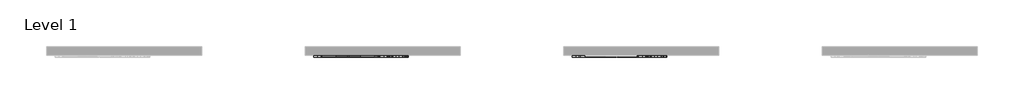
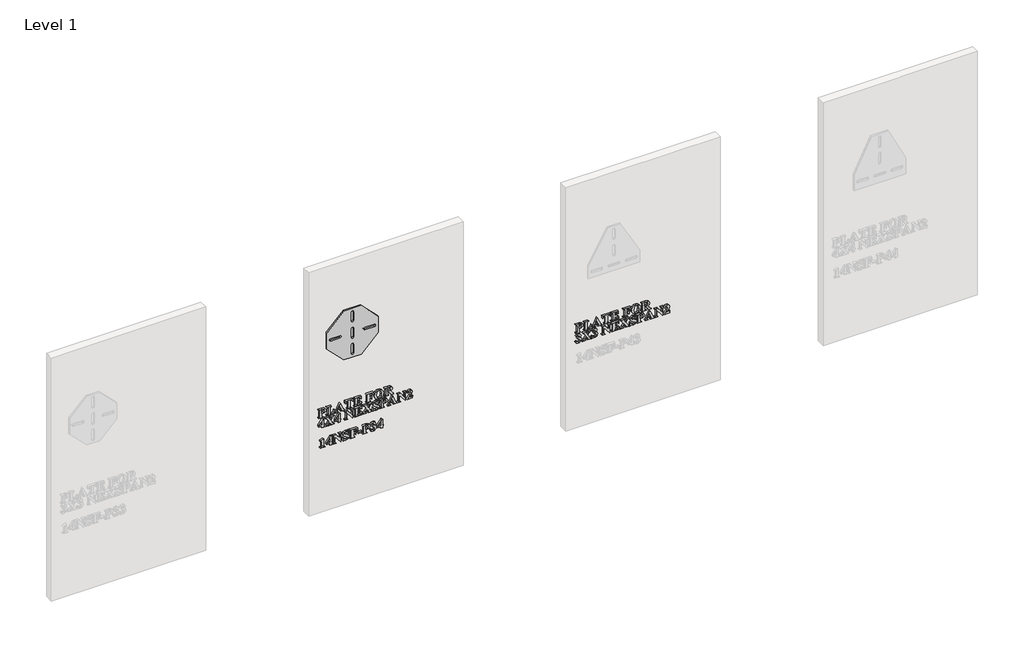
# One storey, part 17 of 21: 4 proxies.
"""IFC4 building model written with IfcOpenShell, lengths in millimetres."""

from ifc_helpers import new_model, si_unit, frame, origin, place, context, project, spatial, polyline, outline, extrude, transform, mapped, element, save
from components import generic_models_576d6bb0

model = new_model("IFC4")

# Units and contexts
model_context = context("Model", 3, world=origin())
ifc_project = project(units=[si_unit("LENGTHUNIT", "METRE", prefix="MILLI")], contexts=[model_context])

# Site, building, storey
site = spatial("IfcSite", under=ifc_project)
building = spatial("IfcBuilding", under=site)
storey = spatial("IfcBuildingStorey", under=building, Name="Level 1", Elevation=0.0)

# Proxies
placement = place(None, origin())
element("IfcBuildingElementProxy", 1, Name="2\"\" Arial", ObjectType="2\"\" Arial", at=placement, inside=storey, context=model_context, shape_type="SweptSolid", body=[
    extrude(outline(polyline([(624.2127681, 28352.7890158), (625.1268914, 28366.043803), (630.022991, 28375.1781105), (638.6586857, 28378.4952699), (648.6032388, 28373.4468164), (652.5782899, 28356.7917676), (652.5782899, 28333.2877195), (650.8054448, 28333.2877195), (650.2029545, 28338.0730163), (648.5963136, 28339.8666369), (643.7140644, 28340.3791), (609.1435847, 28340.3791), (604.2751858, 28339.8666369), (602.6685449, 28338.0937918), (602.0522042, 28333.2877195), (600.2793591, 28333.2877195), (600.2793591, 28359.8803962), (602.0522042, 28359.8803962), (602.6546946, 28355.1089498), (604.2613354, 28353.3014788), (609.1435847, 28352.7890158), (624.2127681, 28352.7890158)]), holes=[polyline([(649.9190223, 28352.7890158), (649.9190223, 28354.5757112), (647.1628021, 28363.1975556), (638.4786311, 28366.0853541), (629.6421063, 28363.1975556), (626.7889337, 28354.9773714), (626.8720358, 28352.7890158), (649.9190223, 28352.7890158)])]), frame((0.0, -15490.3579358, 0.0), z_axis=(0.0, 1.0, 0.0), x_axis=(0.0, 0.0, 1.0)), (0.0, 0.0, 1.0), 12.7),
    extrude(outline(polyline([(619.7806553, 28429.9077782), (619.7806553, 28428.1349331), (610.1269597, 28424.3399365), (605.3416629, 28419.5892656), (603.8250493, 28412.7194908), (603.8250493, 28408.4120312), (604.1713081, 28403.7998638), (605.7848742, 28401.999318), (610.8333277, 28401.5422564), (643.7140644, 28401.5422564), (648.298531, 28401.9162159), (650.0436754, 28403.3289518), (650.8054448, 28406.597635), (650.8054448, 28408.6336368), (652.5782899, 28408.6336368), (652.5782899, 28382.0409601), (650.8054448, 28382.0409601), (650.8054448, 28383.7168528), (650.0990768, 28387.0686381), (648.4439597, 28388.7237552), (643.7140644, 28389.1323406), (609.1435847, 28389.1323406), (604.559118, 28388.7306804), (602.8139736, 28387.2348423), (602.0522042, 28383.7168528), (602.0522042, 28382.0409601), (600.2793591, 28382.0409601), (600.2793591, 28428.1349331), (619.7806553, 28429.9077782)])), frame((0.0, -15490.3579358, 0.0), z_axis=(0.0, 1.0, 0.0), x_axis=(0.0, 0.0, 1.0)), (0.0, 0.0, 1.0), 12.7),
    extrude(outline(polyline([(615.3485426, 28464.8660677), (608.7003734, 28467.7884921), (604.559118, 28469.1735273), (602.869375, 28468.3286558), (602.0522042, 28463.0101205), (600.2793591, 28463.0101205), (600.2793591, 28488.4116669), (602.0522042, 28488.4116669), (603.4095388, 28484.7136228), (610.9025794, 28480.28151), (653.4647125, 28460.6278599), (612.066009, 28441.8052309), (604.3375124, 28437.3384922), (602.0522042, 28432.7193997), (600.2793591, 28432.7193997), (600.2793591, 28450.4894019), (602.0522042, 28450.4894019), (602.9386268, 28445.3647715), (606.0272554, 28443.5919264), (610.0300072, 28444.6722539), (615.3485426, 28447.0822152), (615.3485426, 28464.8660677)]), holes=[polyline([(618.8942328, 28463.3148283), (618.8942328, 28448.6888561), (635.2376487, 28456.0987946), (618.8942328, 28463.3148283)])]), frame((0.0, -15490.3579358, 0.0), z_axis=(0.0, 1.0, 0.0), x_axis=(0.0, 0.0, 1.0)), (0.0, 0.0, 1.0), 12.7),
    extrude(outline(polyline([(652.5782899, 28538.05133), (652.5782899, 28491.9573571), (637.5091065, 28491.9573571), (637.5091065, 28493.7302022), (646.7195908, 28497.8299065), (649.0325997, 28505.2536955), (649.0325997, 28508.7993857), (609.1435847, 28508.7993857), (604.559118, 28508.3977255), (602.8139736, 28506.8741867), (602.0522042, 28503.3700475), (602.0522042, 28501.7080052), (600.2793591, 28501.7080052), (600.2793591, 28528.3006819), (602.0522042, 28528.3006819), (602.0522042, 28526.65249), (602.7585722, 28523.2868543), (604.4136893, 28521.6317372), (609.1435847, 28521.2093015), (649.0325997, 28521.2093015), (649.0325997, 28524.7549917), (648.3123814, 28529.6857172), (644.7874667, 28533.646918), (637.5091065, 28536.2784849), (637.5091065, 28538.05133), (652.5782899, 28538.05133)])), frame((0.0, -15490.3579358, 0.0), z_axis=(0.0, 1.0, 0.0), x_axis=(0.0, 0.0, 1.0)), (0.0, 0.0, 1.0), 12.7),
    extrude(outline(polyline([(649.0325997, 28562.8711616), (649.0325997, 28567.3032744), (648.3400821, 28575.3364788), (644.7320653, 28581.0289737), (636.6226839, 28584.145303), (636.6226839, 28585.9181481), (652.5782899, 28585.9181481), (652.5782899, 28543.3698654), (650.8054448, 28543.3698654), (650.8054448, 28545.045758), (649.7805187, 28548.896156), (647.827619, 28550.2811912), (643.7140644, 28550.4612458), (609.1435847, 28550.4612458), (604.559118, 28550.0595856), (602.8139736, 28548.5637475), (602.0522042, 28545.045758), (602.0522042, 28543.3698654), (600.2793591, 28543.3698654), (600.2793591, 28587.1785302), (616.8859317, 28588.1203541), (606.4427659, 28582.0054235), (602.9386268, 28570.6827604), (602.9386268, 28567.6633836), (603.5549675, 28564.5470543), (605.1339076, 28563.2243456), (610.4039667, 28562.8711616), (625.0991907, 28562.8711616), (624.0950401, 28567.878064), (620.1753904, 28570.9112912), (612.6892749, 28572.6218097), (612.6892749, 28574.3946548), (640.1683741, 28574.3946548), (640.1683741, 28572.6218097), (630.9024884, 28570.1148959), (627.7584584, 28562.8711616), (649.0325997, 28562.8711616)])), frame((0.0, -15490.3579358, 0.0), z_axis=(0.0, 1.0, 0.0), x_axis=(0.0, 0.0, 1.0)), (0.0, 0.0, 1.0), 12.7),
    extrude(outline(polyline([(649.0325997, 28634.6713887), (649.0325997, 28639.1035015), (648.4370346, 28647.6630193), (644.7251401, 28654.0757325), (636.6226839, 28656.8319526), (636.6226839, 28658.6047977), (652.5782899, 28658.6047977), (652.5782899, 28615.1700924), (650.8054448, 28615.1700924), (650.8054448, 28616.8459851), (650.0990768, 28620.1977704), (648.4439597, 28621.8528875), (643.7140644, 28622.2614729), (609.1435847, 28622.2614729), (604.559118, 28621.8598127), (602.8139736, 28620.3639746), (602.0522042, 28616.8459851), (602.0522042, 28615.1700924), (600.2793591, 28615.1700924), (600.2793591, 28641.7627691), (602.0522042, 28641.7627691), (602.0522042, 28640.1007268), (602.7585722, 28636.7558667), (604.4136893, 28635.0938244), (609.1435847, 28634.6713887), (625.0991907, 28634.6713887), (625.0991907, 28636.4442338), (622.6823042, 28643.3555597), (612.6892749, 28647.0813045), (612.6892749, 28648.8541496), (641.0547967, 28648.8541496), (641.0547967, 28647.0813045), (633.6725588, 28645.2253572), (629.7944602, 28641.7419936), (628.6448809, 28636.4442338), (628.6448809, 28634.6713887), (649.0325997, 28634.6713887)])), frame((0.0, -15490.3579358, 0.0), z_axis=(0.0, 1.0, 0.0), x_axis=(0.0, 0.0, 1.0)), (0.0, 0.0, 1.0), 12.7),
    extrude(outline(polyline([(653.4647125, 28691.0561735), (651.8788471, 28680.514324), (646.1794271, 28671.7695577), (637.4606302, 28665.8848892), (626.8166344, 28663.923333), (617.1733265, 28665.4295589), (608.9358294, 28669.9482364), (601.7786598, 28679.1656459), (599.3929366, 28691.5547862), (601.8929252, 28703.9127631), (609.392891, 28713.1197849), (626.8581854, 28718.8815315), (637.4969874, 28716.9494074), (646.2002026, 28711.1530349), (651.884041, 28702.2645712), (653.4647125, 28691.0561735)]), holes=[polyline([(650.8054448, 28691.5132351), (648.6863409, 28698.1267784), (641.4356814, 28702.8497486), (625.9440622, 28704.6987706), (611.8444034, 28702.8843745), (603.9774032, 28697.8151455), (602.0522042, 28691.4439833), (606.5120177, 28682.6213088), (626.2487699, 28678.1060939), (643.4924587, 28681.0285183), (648.9771983, 28685.4502433), (650.8054448, 28691.5132351)])]), frame((0.0, -15490.3579358, 0.0), z_axis=(0.0, 1.0, 0.0), x_axis=(0.0, 0.0, 1.0)), (0.0, 0.0, 1.0), 12.7),
    extrude(outline(polyline([(624.2127681, 28742.8149406), (624.2127681, 28746.249828), (600.2793591, 28763.0364551), (600.2793591, 28779.1582654), (602.0522042, 28779.1582654), (603.3956884, 28775.8895822), (607.7723998, 28772.7455522), (625.4592998, 28760.3356364), (628.9911397, 28767.2885133), (638.395529, 28771.1804624), (646.5326111, 28768.417317), (651.2902072, 28761.2843855), (652.5782899, 28747.4825093), (652.5782899, 28723.3136443), (650.8054448, 28723.3136443), (650.2029545, 28728.0989411), (648.5963136, 28729.8925617), (643.7140644, 28730.4050248), (609.1435847, 28730.4050248), (604.2751858, 28729.8925617), (602.6685449, 28728.1197166), (602.0522042, 28723.3136443), (600.2793591, 28723.3136443), (600.2793591, 28749.906321), (602.0522042, 28749.906321), (602.6546946, 28745.1210242), (604.2613354, 28743.3274036), (609.1435847, 28742.8149406), (624.2127681, 28742.8149406)]), holes=[polyline([(649.9190223, 28742.8149406), (649.9190223, 28746.9423456), (647.0450741, 28755.9727754), (638.160073, 28758.7705466), (631.4288018, 28757.2470078), (627.862336, 28753.0572762), (626.8720358, 28745.0171466), (626.8720358, 28742.8149406), (649.9190223, 28742.8149406)])]), frame((0.0, -15490.3579358, 0.0), z_axis=(0.0, 1.0, 0.0), x_axis=(0.0, 0.0, 1.0)), (0.0, 0.0, 1.0), 12.7),
    extrude(outline(polyline([(555.684317, 28334.1741421), (547.706514, 28334.1741421), (547.706514, 28352.7890158), (536.1830208, 28352.7890158), (536.1830208, 28364.312509), (547.706514, 28364.312509), (547.706514, 28368.7446218), (555.684317, 28368.7446218), (555.684317, 28364.312509), (589.3683741, 28364.312509), (589.3683741, 28359.2017289), (555.684317, 28334.1741421)]), holes=[polyline([(555.684317, 28336.8611105), (577.1108122, 28352.7890158), (555.684317, 28352.7890158), (555.684317, 28336.8611105)])]), frame((0.0, -15490.3579358, 0.0), z_axis=(0.0, 1.0, 0.0), x_axis=(0.0, 0.0, 1.0)), (0.0, 0.0, 1.0), 12.7),
    extrude(outline(polyline([(566.5845444, 28404.5062318), (578.4681468, 28413.9937232), (584.2021927, 28419.0075508), (586.1481672, 28421.9715262), (586.7091065, 28425.6280193), (588.4819516, 28425.6280193), (588.4819516, 28406.1959748), (586.7091065, 28406.1959748), (586.2243441, 28409.6585629), (584.88086, 28411.3760066), (583.0110624, 28411.9715718), (575.9473826, 28407.7333639), (569.5069687, 28402.5810328), (579.146814, 28396.2514217), (584.3406962, 28393.3289974), (586.0304392, 28394.2154199), (586.7091065, 28398.6336823), (588.4819516, 28398.6336823), (588.4819516, 28373.0936324), (586.7091065, 28373.0936324), (585.9334867, 28375.8637029), (584.2021927, 28377.8997047), (579.0775623, 28381.6392999), (559.4377625, 28394.5478284), (546.8616425, 28384.4786222), (539.7425613, 28377.2764389), (537.9558659, 28371.8886518), (536.1830208, 28371.8886518), (536.1830208, 28392.2348195), (537.9558659, 28392.2348195), (538.1774715, 28388.9245853), (539.4655543, 28386.1891407), (541.4046036, 28385.2680922), (547.000146, 28388.8414832), (556.5291885, 28396.459177), (545.781315, 28403.5228568), (540.4627797, 28406.4868322), (538.8422884, 28405.6004096), (537.9558659, 28401.6807599), (536.1830208, 28401.6807599), (536.1830208, 28426.9715034), (537.9558659, 28426.9715034), (539.2993501, 28423.3704118), (545.6428115, 28418.2596318), (566.5845444, 28404.5062318)])), frame((0.0, -15490.3579358, 0.0), z_axis=(0.0, 1.0, 0.0), x_axis=(0.0, 0.0, 1.0)), (0.0, 0.0, 1.0), 12.7),
    extrude(outline(polyline([(555.684317, 28429.9077782), (547.706514, 28429.9077782), (547.706514, 28448.5226518), (536.1830208, 28448.5226518), (536.1830208, 28460.0461451), (547.706514, 28460.0461451), (547.706514, 28464.4782579), (555.684317, 28464.4782579), (555.684317, 28460.0461451), (589.3683741, 28460.0461451), (589.3683741, 28454.935365), (555.684317, 28429.9077782)]), holes=[polyline([(555.684317, 28432.5947465), (577.1108122, 28448.5226518), (555.684317, 28448.5226518), (555.684317, 28432.5947465)])]), frame((0.0, -15490.3579358, 0.0), z_axis=(0.0, 1.0, 0.0), x_axis=(0.0, 0.0, 1.0)), (0.0, 0.0, 1.0), 12.7),
    extrude(outline(polyline([(588.4819516, 28506.61103), (588.4819516, 28488.1900612), (586.7091065, 28488.1900612), (586.1066161, 28491.8534795), (582.955661, 28495.5030473), (545.0472463, 28495.5030473), (539.5971326, 28493.9448827), (537.9558659, 28488.4116669), (536.1830208, 28488.4116669), (536.1830208, 28506.140118), (537.9558659, 28505.0459402), (539.4170781, 28500.8700589), (545.0472463, 28499.0487376), (578.4542964, 28499.0487376), (535.2965982, 28532.8712982), (535.2965982, 28534.5056398), (577.8448809, 28534.5056398), (583.2811442, 28535.1635316), (585.5664524, 28536.9987033), (586.7091065, 28541.5970203), (588.4819516, 28541.5970203), (588.4819516, 28523.8685691), (586.7091065, 28523.8685691), (584.4653494, 28529.6995675), (577.8448809, 28530.9599496), (557.4156111, 28530.9599496), (588.4819516, 28506.61103)])), frame((0.0, -15490.3579358, 0.0), z_axis=(0.0, 1.0, 0.0), x_axis=(0.0, 0.0, 1.0)), (0.0, 0.0, 1.0), 12.7),
    extrude(outline(polyline([(584.9362614, 28565.5304293), (584.9362614, 28569.9625421), (584.2437437, 28577.9957465), (580.6357269, 28583.6882413), (572.5263456, 28586.8045706), (572.5263456, 28588.5774157), (588.4819516, 28588.5774157), (588.4819516, 28546.029133), (586.7091065, 28546.029133), (586.7091065, 28547.7050257), (585.6841804, 28551.5554237), (583.7312807, 28552.9404589), (579.617726, 28553.1205135), (545.0472463, 28553.1205135), (540.4627797, 28552.7188533), (538.7176353, 28551.2230152), (537.9558659, 28547.7050257), (537.9558659, 28546.029133), (536.1830208, 28546.029133), (536.1830208, 28589.8377978), (552.7895933, 28590.7796218), (542.3464276, 28584.6646912), (538.8422884, 28573.3420281), (538.8422884, 28570.3226512), (539.4586291, 28567.2063219), (541.0375693, 28565.8836133), (546.3076284, 28565.5304293), (561.0028523, 28565.5304293), (559.9987018, 28570.5373317), (556.079052, 28573.5705589), (548.5929366, 28575.2810774), (548.5929366, 28577.0539225), (576.0720358, 28577.0539225), (576.0720358, 28575.2810774), (566.80615, 28572.7741636), (563.66212, 28565.5304293), (584.9362614, 28565.5304293)])), frame((0.0, -15490.3579358, 0.0), z_axis=(0.0, 1.0, 0.0), x_axis=(0.0, 0.0, 1.0)), (0.0, 0.0, 1.0), 12.7),
    extrude(outline(polyline([(566.5845444, 28628.7711385), (578.4681468, 28638.25863), (584.2021927, 28643.2724575), (586.1481672, 28646.236433), (586.7091065, 28649.892926), (588.4819516, 28649.892926), (588.4819516, 28630.4608815), (586.7091065, 28630.4608815), (586.2243441, 28633.9234696), (584.88086, 28635.6409134), (583.0110624, 28636.2364785), (575.9473826, 28631.9982707), (569.5069687, 28626.8459395), (579.146814, 28620.5163285), (584.3406962, 28617.5939041), (586.0304392, 28618.4803267), (586.7091065, 28622.8985891), (588.4819516, 28622.8985891), (588.4819516, 28597.3585392), (586.7091065, 28597.3585392), (585.9334867, 28600.1286097), (584.2021927, 28602.1646115), (579.0775623, 28605.9042067), (559.4377625, 28618.8127351), (546.8616425, 28608.7435289), (539.7425613, 28601.5413456), (537.9558659, 28596.1535585), (536.1830208, 28596.1535585), (536.1830208, 28616.4997263), (537.9558659, 28616.4997263), (538.1774715, 28613.189492), (539.4655543, 28610.4540474), (541.4046036, 28609.532999), (547.000146, 28613.1063899), (556.5291885, 28620.7240838), (545.781315, 28627.7877635), (540.4627797, 28630.7517389), (538.8422884, 28629.8653164), (537.9558659, 28625.9456666), (536.1830208, 28625.9456666), (536.1830208, 28651.2364102), (537.9558659, 28651.2364102), (539.2993501, 28647.6353186), (545.6428115, 28642.5245385), (566.5845444, 28628.7711385)])), frame((0.0, -15490.3579358, 0.0), z_axis=(0.0, 1.0, 0.0), x_axis=(0.0, 0.0, 1.0)), (0.0, 0.0, 1.0), 12.7),
    extrude(outline(polyline([(589.3683741, 28690.5160097), (589.3683741, 28688.7431646), (586.4320994, 28687.6351364), (585.8226839, 28686.0007948), (587.0622905, 28682.2404241), (588.7589586, 28677.6905834), (589.3683741, 28672.607504), (585.040139, 28660.6754254), (574.548497, 28655.94553), (567.9418789, 28657.5798716), (562.5056156, 28662.2612907), (556.5984403, 28673.1061167), (552.5541373, 28680.8623141), (549.2854542, 28684.1240721), (545.7259136, 28685.1974744), (540.2896503, 28682.5312815), (537.9558659, 28675.3637242), (542.2702507, 28664.511973), (554.7978944, 28657.7183751), (554.7978944, 28655.94553), (535.2965982, 28655.94553), (535.2965982, 28657.7183751), (537.9697162, 28659.5396965), (538.8422884, 28661.6795759), (537.9835666, 28664.7405038), (535.8575375, 28670.28757), (535.2965982, 28674.9759143), (539.9780173, 28688.0367966), (551.1691021, 28693.1752774), (560.2687837, 28690.5575608), (568.7174987, 28677.8706379), (573.2050128, 28668.7294053), (576.7645534, 28664.8097556), (579.8254813, 28663.923333), (584.6246284, 28666.3471447), (586.7091065, 28672.9260621), (582.5747763, 28682.9398669), (571.639923, 28688.7431646), (571.639923, 28690.5160097), (589.3683741, 28690.5160097)])), frame((0.0, -15490.3579358, 0.0), z_axis=(0.0, 1.0, 0.0), x_axis=(0.0, 0.0, 1.0)), (0.0, 0.0, 1.0), 12.7),
    extrude(outline(polyline([(560.1164298, 28716.2222639), (561.030553, 28729.4770512), (565.9266526, 28738.6113586), (574.5623474, 28741.928518), (584.5069004, 28736.8800645), (588.4819516, 28720.2250157), (588.4819516, 28696.7209676), (586.7091065, 28696.7209676), (586.1066161, 28701.5062644), (584.4999753, 28703.299885), (579.617726, 28703.8123481), (545.0472463, 28703.8123481), (540.1788474, 28703.299885), (538.5722066, 28701.5270399), (537.9558659, 28696.7209676), (536.1830208, 28696.7209676), (536.1830208, 28723.3136443), (537.9558659, 28723.3136443), (538.5583562, 28718.5421979), (540.1649971, 28716.7347269), (545.0472463, 28716.2222639), (560.1164298, 28716.2222639)]), holes=[polyline([(585.8226839, 28716.2222639), (585.8226839, 28718.0089593), (583.0664638, 28726.6308037), (574.3822928, 28729.5186022), (565.5457679, 28726.6308037), (562.6925953, 28718.4106195), (562.7756975, 28716.2222639), (585.8226839, 28716.2222639)])]), frame((0.0, -15490.3579358, 0.0), z_axis=(0.0, 1.0, 0.0), x_axis=(0.0, 0.0, 1.0)), (0.0, 0.0, 1.0), 12.7),
    extrude(outline(polyline([(551.2522042, 28776.000385), (544.604035, 28778.9228094), (540.4627797, 28780.3078446), (538.7730367, 28779.4629731), (537.9558659, 28774.1444378), (536.1830208, 28774.1444378), (536.1830208, 28799.5459842), (537.9558659, 28799.5459842), (539.3132004, 28795.8479401), (546.8062411, 28791.4158273), (589.3683741, 28771.7621772), (547.9696707, 28752.9395482), (540.241174, 28748.4728095), (537.9558659, 28743.853717), (536.1830208, 28743.853717), (536.1830208, 28761.6237192), (537.9558659, 28761.6237192), (538.8422884, 28756.4990888), (541.930917, 28754.7262437), (545.9336689, 28755.8065711), (551.2522042, 28758.2165325), (551.2522042, 28776.000385)]), holes=[polyline([(554.7978944, 28774.4491455), (554.7978944, 28759.8231734), (571.1413103, 28767.2331119), (554.7978944, 28774.4491455)])]), frame((0.0, -15490.3579358, 0.0), z_axis=(0.0, 1.0, 0.0), x_axis=(0.0, 0.0, 1.0)), (0.0, 0.0, 1.0), 12.7),
    extrude(outline(polyline([(588.4819516, 28819.5181924), (588.4819516, 28801.0972236), (586.7091065, 28801.0972236), (586.1066161, 28804.7606419), (582.955661, 28808.4102097), (545.0472463, 28808.4102097), (539.5971326, 28806.8520451), (537.9558659, 28801.3188293), (536.1830208, 28801.3188293), (536.1830208, 28819.0472804), (537.9558659, 28817.9531026), (539.4170781, 28813.7772213), (545.0472463, 28811.9558999), (578.4542964, 28811.9558999), (535.2965982, 28845.7784606), (535.2965982, 28847.4128022), (577.8448809, 28847.4128022), (583.2811442, 28848.0706939), (585.5664524, 28849.9058656), (586.7091065, 28854.5041827), (588.4819516, 28854.5041827), (588.4819516, 28836.7757315), (586.7091065, 28836.7757315), (584.4653494, 28842.6067299), (577.8448809, 28843.867112), (557.4156111, 28843.867112), (588.4819516, 28819.5181924)])), frame((0.0, -15490.3579358, 0.0), z_axis=(0.0, 1.0, 0.0), x_axis=(0.0, 0.0, 1.0)), (0.0, 0.0, 1.0), 12.7),
    extrude(outline(polyline([(536.1830208, 28888.5899), (551.2522042, 28890.2103913), (548.1635756, 28888.1120629), (547.1247992, 28886.076061), (546.8200914, 28880.7228998), (546.8200914, 28869.5595158), (566.3906394, 28886.2768912), (576.6260499, 28889.0746624), (582.5609259, 28887.1840892), (587.5470528, 28881.9555812), (589.3683741, 28874.5733433), (585.864235, 28864.5803141), (574.548497, 28859.5595613), (579.0152357, 28863.7285174), (580.5041486, 28869.3102094), (577.8241054, 28875.7852492), (571.0997593, 28878.4375917), (559.7286199, 28875.3351127), (536.1830208, 28857.1634503), (536.1830208, 28888.5899)])), frame((0.0, -15490.3579358, 0.0), z_axis=(0.0, 1.0, 0.0), x_axis=(0.0, 0.0, 1.0)), (0.0, 0.0, 1.0), 12.7),
])
element("IfcBuildingElementProxy", 2, Name="2\"\" Arial", ObjectType="2\"\" Arial", at=placement, inside=storey, context=model_context, shape_type="SweptSolid", body=[
    extrude(outline(polyline([(463.8692305, 28362.9409375), (455.0050049, 28343.1834097), (453.2321598, 28343.8482267), (454.4648412, 28348.4049926), (453.827725, 28350.4825455), (452.3111114, 28351.7152269), (447.9136245, 28352.0476353), (421.3209478, 28352.0476353), (415.2544934, 28351.5282471), (413.2046413, 28349.5407215), (412.4567222, 28343.1834097), (410.6838771, 28343.1834097), (410.6838771, 28371.5489316), (412.4567222, 28370.3162502), (413.273893, 28365.8425863), (415.3791466, 28364.0074146), (421.3209478, 28363.5711285), (463.8692305, 28362.9409375)])), frame((0.0, -15490.3579358, 0.0), z_axis=(0.0, 1.0, 0.0), x_axis=(0.0, 0.0, 1.0)), (0.0, 0.0, 1.0), 12.7),
    extrude(outline(polyline([(430.1851733, 28380.4131571), (422.2073703, 28380.4131571), (422.2073703, 28399.0280308), (410.6838771, 28399.0280308), (410.6838771, 28410.551524), (422.2073703, 28410.551524), (422.2073703, 28414.9836368), (430.1851733, 28414.9836368), (430.1851733, 28410.551524), (463.8692305, 28410.551524), (463.8692305, 28405.440744), (430.1851733, 28380.4131571)]), holes=[polyline([(430.1851733, 28383.1001255), (451.6116686, 28399.0280308), (430.1851733, 28399.0280308), (430.1851733, 28383.1001255)])]), frame((0.0, -15490.3579358, 0.0), z_axis=(0.0, 1.0, 0.0), x_axis=(0.0, 0.0, 1.0)), (0.0, 0.0, 1.0), 12.7),
    extrude(outline(polyline([(462.9828079, 28437.6151127), (462.9828079, 28419.194144), (461.2099628, 28419.194144), (460.6074725, 28422.8575622), (457.4565173, 28426.50713), (419.5481027, 28426.50713), (414.097989, 28424.9489654), (412.4567222, 28419.4157496), (410.6838771, 28419.4157496), (410.6838771, 28437.1442007), (412.4567222, 28436.0500229), (413.9179344, 28431.8741416), (419.5481027, 28430.0528203), (452.9551528, 28430.0528203), (409.7974546, 28463.8753809), (409.7974546, 28465.5097225), (452.3457373, 28465.5097225), (457.7820006, 28466.1676143), (460.0673087, 28468.002786), (461.2099628, 28472.601103), (462.9828079, 28472.601103), (462.9828079, 28454.8726518), (461.2099628, 28454.8726518), (458.9662057, 28460.7036502), (452.3457373, 28461.9640323), (431.9164674, 28461.9640323), (462.9828079, 28437.6151127)])), frame((0.0, -15490.3579358, 0.0), z_axis=(0.0, 1.0, 0.0), x_axis=(0.0, 0.0, 1.0)), (0.0, 0.0, 1.0), 12.7),
    extrude(outline(polyline([(463.8692305, 28513.3765406), (463.8692305, 28511.6036955), (460.9329558, 28510.4956673), (460.3235403, 28508.8613257), (461.5631468, 28505.100955), (463.259815, 28500.5511142), (463.8692305, 28495.4680349), (459.5409954, 28483.5359562), (449.0493534, 28478.8060609), (442.4427353, 28480.4404025), (437.0064719, 28485.1218216), (431.0992966, 28495.9666475), (427.0549937, 28503.7228449), (423.7863105, 28506.9846029), (420.2267699, 28508.0580052), (414.7905066, 28505.3918124), (412.4567222, 28498.224255), (416.771107, 28487.3725039), (429.2987508, 28480.578906), (429.2987508, 28478.8060609), (409.7974546, 28478.8060609), (409.7974546, 28480.578906), (412.4705726, 28482.4002273), (413.3431448, 28484.5401068), (412.4844229, 28487.6010347), (410.3583938, 28493.1481008), (409.7974546, 28497.8364451), (414.4788737, 28510.8973275), (425.6699585, 28516.0358082), (434.76964, 28513.4180916), (443.218355, 28500.7311688), (447.7058692, 28491.5899362), (451.2654098, 28487.6702864), (454.3263377, 28486.7838639), (459.1254848, 28489.2076756), (461.2099628, 28495.786593), (457.0756326, 28505.8003978), (446.1407794, 28511.6036955), (446.1407794, 28513.3765406), (463.8692305, 28513.3765406)])), frame((0.0, -15490.3579358, 0.0), z_axis=(0.0, 1.0, 0.0), x_axis=(0.0, 0.0, 1.0)), (0.0, 0.0, 1.0), 12.7),
    extrude(outline(polyline([(459.4371177, 28539.9692173), (459.4371177, 28544.40133), (458.8415526, 28552.9608478), (455.1296581, 28559.373561), (447.0272019, 28562.1297812), (447.0272019, 28563.9026263), (462.9828079, 28563.9026263), (462.9828079, 28520.467921), (461.2099628, 28520.467921), (461.2099628, 28522.1438137), (460.5035948, 28525.495599), (458.8484777, 28527.1507161), (454.1185824, 28527.5593015), (419.5481027, 28527.5593015), (414.963636, 28527.1576412), (413.2184916, 28525.6618032), (412.4567222, 28522.1438137), (412.4567222, 28520.467921), (410.6838771, 28520.467921), (410.6838771, 28547.0605977), (412.4567222, 28547.0605977), (412.4567222, 28545.3985554), (413.1630902, 28542.0536953), (414.8182073, 28540.391653), (419.5481027, 28539.9692173), (435.5037087, 28539.9692173), (435.5037087, 28541.7420624), (433.0868222, 28548.6533882), (423.0937929, 28552.379133), (423.0937929, 28554.1519782), (451.4593147, 28554.1519782), (451.4593147, 28552.379133), (444.0770768, 28550.5231858), (440.1989782, 28547.0398222), (439.0493989, 28541.7420624), (439.0493989, 28539.9692173), (459.4371177, 28539.9692173)])), frame((0.0, -15490.3579358, 0.0), z_axis=(0.0, 1.0, 0.0), x_axis=(0.0, 0.0, 1.0)), (0.0, 0.0, 1.0), 12.7),
    extrude(outline(polyline([(28589.6088804, -15490.3579358), (28567.4483165, -15490.3579358), (28567.4483165, -15477.6579358), (28589.6088804, -15477.6579358), (28589.6088804, -15490.3579358)])), frame((0.0, 0.0, 424.866638), z_axis=(0.0, 0.0, 1.0), x_axis=(1.0, 0.0, 0.0)), (0.0, 0.0, 1.0), 7.977803),
    extrude(outline(polyline([(434.6172861, 28613.5422894), (435.5314094, 28626.7970767), (440.427509, 28635.9313842), (449.0632037, 28639.2485436), (459.0077568, 28634.2000901), (462.9828079, 28617.5450413), (462.9828079, 28594.0409932), (461.2099628, 28594.0409932), (460.6074725, 28598.82629), (459.0008316, 28600.6199106), (454.1185824, 28601.1323736), (419.5481027, 28601.1323736), (414.6797038, 28600.6199106), (413.0730629, 28598.8470655), (412.4567222, 28594.0409932), (410.6838771, 28594.0409932), (410.6838771, 28620.6336699), (412.4567222, 28620.6336699), (413.0592126, 28615.8622235), (414.6658534, 28614.0547525), (419.5481027, 28613.5422894), (434.6172861, 28613.5422894)]), holes=[polyline([(460.3235403, 28613.5422894), (460.3235403, 28615.3289849), (457.5673201, 28623.9508293), (448.8831491, 28626.8386278), (440.0466243, 28623.9508293), (437.1934517, 28615.7306451), (437.2765538, 28613.5422894), (460.3235403, 28613.5422894)])]), frame((0.0, -15490.3579358, 0.0), z_axis=(0.0, 1.0, 0.0), x_axis=(0.0, 0.0, 1.0)), (0.0, 0.0, 1.0), 12.7),
    extrude(outline(polyline([(439.0493989, 28650.7720368), (432.8790669, 28662.6625644), (423.1214936, 28666.7276428), (417.3805225, 28664.6223892), (415.1159899, 28659.580861), (418.2323192, 28652.3232763), (421.6533562, 28647.8219117), (422.2073703, 28645.356549), (420.7184575, 28642.330247), (417.124291, 28641.0213887), (412.4013208, 28643.2789961), (409.7974546, 28653.2235492), (411.3123369, 28662.3994077), (415.8569837, 28669.5115637), (422.5657482, 28674.0717922), (430.5729832, 28675.5918684), (439.1186507, 28672.7525461), (444.8526966, 28664.5115864), (449.0562786, 28670.8965989), (454.0216299, 28672.9326007), (460.9191054, 28669.2968832), (463.8692305, 28660.0656233), (461.4246433, 28650.1141451), (453.6061193, 28643.6806563), (458.5506952, 28653.0711953), (456.1892101, 28659.0199217), (450.5313411, 28661.4091075), (445.8291464, 28660.1279499), (442.3804087, 28657.0877975), (439.0493989, 28650.7720368)])), frame((0.0, -15490.3579358, 0.0), z_axis=(0.0, 1.0, 0.0), x_axis=(0.0, 0.0, 1.0)), (0.0, 0.0, 1.0), 12.7),
    extrude(outline(polyline([(430.1851733, 28682.6832488), (422.2073703, 28682.6832488), (422.2073703, 28701.2981225), (410.6838771, 28701.2981225), (410.6838771, 28712.8216157), (422.2073703, 28712.8216157), (422.2073703, 28717.2537285), (430.1851733, 28717.2537285), (430.1851733, 28712.8216157), (463.8692305, 28712.8216157), (463.8692305, 28707.7108357), (430.1851733, 28682.6832488)]), holes=[polyline([(430.1851733, 28685.3702172), (451.6116686, 28701.2981225), (430.1851733, 28701.2981225), (430.1851733, 28685.3702172)])]), frame((0.0, -15490.3579358, 0.0), z_axis=(0.0, 1.0, 0.0), x_axis=(0.0, 0.0, 1.0)), (0.0, 0.0, 1.0), 12.7),
])
element("IfcBuildingElementProxy", 3, Name="2\"\" Arial", ObjectType="2\"\" Arial", at=placement, inside=storey, context=model_context, shape_type="SweptSolid", body=[
    extrude(outline(polyline([(624.2127681, 29876.7890158), (625.1268914, 29890.043803), (630.022991, 29899.1781105), (638.6586857, 29902.4952699), (648.6032388, 29897.4468164), (652.5782899, 29880.7917676), (652.5782899, 29857.2877195), (650.8054448, 29857.2877195), (650.2029545, 29862.0730163), (648.5963136, 29863.8666369), (643.7140644, 29864.3791), (609.1435847, 29864.3791), (604.2751858, 29863.8666369), (602.6685449, 29862.0937918), (602.0522042, 29857.2877195), (600.2793591, 29857.2877195), (600.2793591, 29883.8803962), (602.0522042, 29883.8803962), (602.6546946, 29879.1089498), (604.2613354, 29877.3014788), (609.1435847, 29876.7890158), (624.2127681, 29876.7890158)]), holes=[polyline([(649.9190223, 29876.7890158), (649.9190223, 29878.5757112), (647.1628021, 29887.1975556), (638.4786311, 29890.0853541), (629.6421063, 29887.1975556), (626.7889337, 29878.9773714), (626.8720358, 29876.7890158), (649.9190223, 29876.7890158)])]), frame((0.0, -15490.3579358, 0.0), z_axis=(0.0, 1.0, 0.0), x_axis=(0.0, 0.0, 1.0)), (0.0, 0.0, 1.0), 12.7),
    extrude(outline(polyline([(619.7806553, 29953.9077782), (619.7806553, 29952.1349331), (610.1269597, 29948.3399365), (605.3416629, 29943.5892656), (603.8250493, 29936.7194908), (603.8250493, 29932.4120312), (604.1713081, 29927.7998638), (605.7848742, 29925.999318), (610.8333277, 29925.5422564), (643.7140644, 29925.5422564), (648.298531, 29925.9162159), (650.0436754, 29927.3289518), (650.8054448, 29930.597635), (650.8054448, 29932.6336368), (652.5782899, 29932.6336368), (652.5782899, 29906.0409601), (650.8054448, 29906.0409601), (650.8054448, 29907.7168528), (650.0990768, 29911.0686381), (648.4439597, 29912.7237552), (643.7140644, 29913.1323406), (609.1435847, 29913.1323406), (604.559118, 29912.7306804), (602.8139736, 29911.2348423), (602.0522042, 29907.7168528), (602.0522042, 29906.0409601), (600.2793591, 29906.0409601), (600.2793591, 29952.1349331), (619.7806553, 29953.9077782)])), frame((0.0, -15490.3579358, 0.0), z_axis=(0.0, 1.0, 0.0), x_axis=(0.0, 0.0, 1.0)), (0.0, 0.0, 1.0), 12.7),
    extrude(outline(polyline([(615.3485426, 29988.8660677), (608.7003734, 29991.7884921), (604.559118, 29993.1735273), (602.869375, 29992.3286558), (602.0522042, 29987.0101205), (600.2793591, 29987.0101205), (600.2793591, 30012.4116669), (602.0522042, 30012.4116669), (603.4095388, 30008.7136228), (610.9025794, 30004.28151), (653.4647125, 29984.6278599), (612.066009, 29965.8052309), (604.3375124, 29961.3384922), (602.0522042, 29956.7193997), (600.2793591, 29956.7193997), (600.2793591, 29974.4894019), (602.0522042, 29974.4894019), (602.9386268, 29969.3647715), (606.0272554, 29967.5919264), (610.0300072, 29968.6722539), (615.3485426, 29971.0822152), (615.3485426, 29988.8660677)]), holes=[polyline([(618.8942328, 29987.3148283), (618.8942328, 29972.6888561), (635.2376487, 29980.0987946), (618.8942328, 29987.3148283)])]), frame((0.0, -15490.3579358, 0.0), z_axis=(0.0, 1.0, 0.0), x_axis=(0.0, 0.0, 1.0)), (0.0, 0.0, 1.0), 12.7),
    extrude(outline(polyline([(652.5782899, 30062.05133), (652.5782899, 30015.9573571), (637.5091065, 30015.9573571), (637.5091065, 30017.7302022), (646.7195908, 30021.8299065), (649.0325997, 30029.2536955), (649.0325997, 30032.7993857), (609.1435847, 30032.7993857), (604.559118, 30032.3977255), (602.8139736, 30030.8741867), (602.0522042, 30027.3700475), (602.0522042, 30025.7080052), (600.2793591, 30025.7080052), (600.2793591, 30052.3006819), (602.0522042, 30052.3006819), (602.0522042, 30050.65249), (602.7585722, 30047.2868543), (604.4136893, 30045.6317372), (609.1435847, 30045.2093015), (649.0325997, 30045.2093015), (649.0325997, 30048.7549917), (648.3123814, 30053.6857172), (644.7874667, 30057.646918), (637.5091065, 30060.2784849), (637.5091065, 30062.05133), (652.5782899, 30062.05133)])), frame((0.0, -15490.3579358, 0.0), z_axis=(0.0, 1.0, 0.0), x_axis=(0.0, 0.0, 1.0)), (0.0, 0.0, 1.0), 12.7),
    extrude(outline(polyline([(649.0325997, 30086.8711616), (649.0325997, 30091.3032744), (648.3400821, 30099.3364788), (644.7320653, 30105.0289737), (636.6226839, 30108.145303), (636.6226839, 30109.9181481), (652.5782899, 30109.9181481), (652.5782899, 30067.3698654), (650.8054448, 30067.3698654), (650.8054448, 30069.045758), (649.7805187, 30072.896156), (647.827619, 30074.2811912), (643.7140644, 30074.4612458), (609.1435847, 30074.4612458), (604.559118, 30074.0595856), (602.8139736, 30072.5637475), (602.0522042, 30069.045758), (602.0522042, 30067.3698654), (600.2793591, 30067.3698654), (600.2793591, 30111.1785302), (616.8859317, 30112.1203541), (606.4427659, 30106.0054235), (602.9386268, 30094.6827604), (602.9386268, 30091.6633836), (603.5549675, 30088.5470543), (605.1339076, 30087.2243456), (610.4039667, 30086.8711616), (625.0991907, 30086.8711616), (624.0950401, 30091.878064), (620.1753904, 30094.9112912), (612.6892749, 30096.6218097), (612.6892749, 30098.3946548), (640.1683741, 30098.3946548), (640.1683741, 30096.6218097), (630.9024884, 30094.1148959), (627.7584584, 30086.8711616), (649.0325997, 30086.8711616)])), frame((0.0, -15490.3579358, 0.0), z_axis=(0.0, 1.0, 0.0), x_axis=(0.0, 0.0, 1.0)), (0.0, 0.0, 1.0), 12.7),
    extrude(outline(polyline([(649.0325997, 30158.6713887), (649.0325997, 30163.1035015), (648.4370346, 30171.6630193), (644.7251401, 30178.0757325), (636.6226839, 30180.8319526), (636.6226839, 30182.6047977), (652.5782899, 30182.6047977), (652.5782899, 30139.1700924), (650.8054448, 30139.1700924), (650.8054448, 30140.8459851), (650.0990768, 30144.1977704), (648.4439597, 30145.8528875), (643.7140644, 30146.2614729), (609.1435847, 30146.2614729), (604.559118, 30145.8598127), (602.8139736, 30144.3639746), (602.0522042, 30140.8459851), (602.0522042, 30139.1700924), (600.2793591, 30139.1700924), (600.2793591, 30165.7627691), (602.0522042, 30165.7627691), (602.0522042, 30164.1007268), (602.7585722, 30160.7558667), (604.4136893, 30159.0938244), (609.1435847, 30158.6713887), (625.0991907, 30158.6713887), (625.0991907, 30160.4442338), (622.6823042, 30167.3555597), (612.6892749, 30171.0813045), (612.6892749, 30172.8541496), (641.0547967, 30172.8541496), (641.0547967, 30171.0813045), (633.6725588, 30169.2253572), (629.7944602, 30165.7419936), (628.6448809, 30160.4442338), (628.6448809, 30158.6713887), (649.0325997, 30158.6713887)])), frame((0.0, -15490.3579358, 0.0), z_axis=(0.0, 1.0, 0.0), x_axis=(0.0, 0.0, 1.0)), (0.0, 0.0, 1.0), 12.7),
    extrude(outline(polyline([(653.4647125, 30215.0561735), (651.8788471, 30204.514324), (646.1794271, 30195.7695577), (637.4606302, 30189.8848892), (626.8166344, 30187.923333), (617.1733265, 30189.4295589), (608.9358294, 30193.9482364), (601.7786598, 30203.1656459), (599.3929366, 30215.5547862), (601.8929252, 30227.9127631), (609.392891, 30237.1197849), (626.8581854, 30242.8815315), (637.4969874, 30240.9494074), (646.2002026, 30235.1530349), (651.884041, 30226.2645712), (653.4647125, 30215.0561735)]), holes=[polyline([(650.8054448, 30215.5132351), (648.6863409, 30222.1267784), (641.4356814, 30226.8497486), (625.9440622, 30228.6987706), (611.8444034, 30226.8843745), (603.9774032, 30221.8151455), (602.0522042, 30215.4439833), (606.5120177, 30206.6213088), (626.2487699, 30202.1060939), (643.4924587, 30205.0285183), (648.9771983, 30209.4502433), (650.8054448, 30215.5132351)])]), frame((0.0, -15490.3579358, 0.0), z_axis=(0.0, 1.0, 0.0), x_axis=(0.0, 0.0, 1.0)), (0.0, 0.0, 1.0), 12.7),
    extrude(outline(polyline([(624.2127681, 30266.8149406), (624.2127681, 30270.249828), (600.2793591, 30287.0364551), (600.2793591, 30303.1582654), (602.0522042, 30303.1582654), (603.3956884, 30299.8895822), (607.7723998, 30296.7455522), (625.4592998, 30284.3356364), (628.9911397, 30291.2885133), (638.395529, 30295.1804624), (646.5326111, 30292.417317), (651.2902072, 30285.2843855), (652.5782899, 30271.4825093), (652.5782899, 30247.3136443), (650.8054448, 30247.3136443), (650.2029545, 30252.0989411), (648.5963136, 30253.8925617), (643.7140644, 30254.4050248), (609.1435847, 30254.4050248), (604.2751858, 30253.8925617), (602.6685449, 30252.1197166), (602.0522042, 30247.3136443), (600.2793591, 30247.3136443), (600.2793591, 30273.906321), (602.0522042, 30273.906321), (602.6546946, 30269.1210242), (604.2613354, 30267.3274036), (609.1435847, 30266.8149406), (624.2127681, 30266.8149406)]), holes=[polyline([(649.9190223, 30266.8149406), (649.9190223, 30270.9423456), (647.0450741, 30279.9727754), (638.160073, 30282.7705466), (631.4288018, 30281.2470078), (627.862336, 30277.0572762), (626.8720358, 30269.0171466), (626.8720358, 30266.8149406), (649.9190223, 30266.8149406)])]), frame((0.0, -15490.3579358, 0.0), z_axis=(0.0, 1.0, 0.0), x_axis=(0.0, 0.0, 1.0)), (0.0, 0.0, 1.0), 12.7),
    extrude(outline(polyline([(564.5485426, 29866.1519451), (558.3782106, 29878.0424727), (548.6206373, 29882.1075511), (542.8796662, 29880.0022975), (540.6151335, 29874.9607692), (543.7314628, 29867.7031846), (547.1524999, 29863.20182), (547.706514, 29860.7364573), (546.2176011, 29857.7101553), (542.6234346, 29856.401297), (537.9004645, 29858.6589044), (535.2965982, 29868.6034575), (536.8114805, 29877.779316), (541.3561274, 29884.8914719), (548.0648919, 29889.4517005), (556.0721269, 29890.9717767), (564.6177943, 29888.1324544), (570.3518402, 29879.8914947), (574.5554222, 29886.2765072), (579.5207736, 29888.312509), (586.4182491, 29884.6767915), (589.3683741, 29875.4455316), (586.9237869, 29865.4940533), (579.105263, 29859.0605646), (584.0498388, 29868.4511036), (581.6883537, 29874.39983), (576.0304847, 29876.7890158), (571.3282901, 29875.5078582), (567.8795523, 29872.4677058), (564.5485426, 29866.1519451)])), frame((0.0, -15490.3579358, 0.0), z_axis=(0.0, 1.0, 0.0), x_axis=(0.0, 0.0, 1.0)), (0.0, 0.0, 1.0), 12.7),
    extrude(outline(polyline([(566.5845444, 29928.5062318), (578.4681468, 29937.9937232), (584.2021927, 29943.0075508), (586.1481672, 29945.9715262), (586.7091065, 29949.6280193), (588.4819516, 29949.6280193), (588.4819516, 29930.1959748), (586.7091065, 29930.1959748), (586.2243441, 29933.6585629), (584.88086, 29935.3760066), (583.0110624, 29935.9715718), (575.9473826, 29931.7333639), (569.5069687, 29926.5810328), (579.146814, 29920.2514217), (584.3406962, 29917.3289974), (586.0304392, 29918.2154199), (586.7091065, 29922.6336823), (588.4819516, 29922.6336823), (588.4819516, 29897.0936324), (586.7091065, 29897.0936324), (585.9334867, 29899.8637029), (584.2021927, 29901.8997047), (579.0775623, 29905.6392999), (559.4377625, 29918.5478284), (546.8616425, 29908.4786222), (539.7425613, 29901.2764389), (537.9558659, 29895.8886518), (536.1830208, 29895.8886518), (536.1830208, 29916.2348195), (537.9558659, 29916.2348195), (538.1774715, 29912.9245853), (539.4655543, 29910.1891407), (541.4046036, 29909.2680922), (547.000146, 29912.8414832), (556.5291885, 29920.459177), (545.781315, 29927.5228568), (540.4627797, 29930.4868322), (538.8422884, 29929.6004096), (537.9558659, 29925.6807599), (536.1830208, 29925.6807599), (536.1830208, 29950.9715034), (537.9558659, 29950.9715034), (539.2993501, 29947.3704118), (545.6428115, 29942.2596318), (566.5845444, 29928.5062318)])), frame((0.0, -15490.3579358, 0.0), z_axis=(0.0, 1.0, 0.0), x_axis=(0.0, 0.0, 1.0)), (0.0, 0.0, 1.0), 12.7),
    extrude(outline(polyline([(564.5485426, 29961.8855812), (558.3782106, 29973.7761087), (548.6206373, 29977.8411872), (542.8796662, 29975.7359336), (540.6151335, 29970.6944053), (543.7314628, 29963.4368206), (547.1524999, 29958.9354561), (547.706514, 29956.4700934), (546.2176011, 29953.4437914), (542.6234346, 29952.1349331), (537.9004645, 29954.3925405), (535.2965982, 29964.3370936), (536.8114805, 29973.512952), (541.3561274, 29980.625108), (548.0648919, 29985.1853366), (556.0721269, 29986.7054127), (564.6177943, 29983.8660905), (570.3518402, 29975.6251308), (574.5554222, 29982.0101433), (579.5207736, 29984.0461451), (586.4182491, 29980.4104276), (589.3683741, 29971.1791677), (586.9237869, 29961.2276894), (579.105263, 29954.7942007), (584.0498388, 29964.1847397), (581.6883537, 29970.1334661), (576.0304847, 29972.5226518), (571.3282901, 29971.2414942), (567.8795523, 29968.2013419), (564.5485426, 29961.8855812)])), frame((0.0, -15490.3579358, 0.0), z_axis=(0.0, 1.0, 0.0), x_axis=(0.0, 0.0, 1.0)), (0.0, 0.0, 1.0), 12.7),
    extrude(outline(polyline([(588.4819516, 30030.61103), (588.4819516, 30012.1900612), (586.7091065, 30012.1900612), (586.1066161, 30015.8534795), (582.955661, 30019.5030473), (545.0472463, 30019.5030473), (539.5971326, 30017.9448827), (537.9558659, 30012.4116669), (536.1830208, 30012.4116669), (536.1830208, 30030.140118), (537.9558659, 30029.0459402), (539.4170781, 30024.8700589), (545.0472463, 30023.0487376), (578.4542964, 30023.0487376), (535.2965982, 30056.8712982), (535.2965982, 30058.5056398), (577.8448809, 30058.5056398), (583.2811442, 30059.1635316), (585.5664524, 30060.9987033), (586.7091065, 30065.5970203), (588.4819516, 30065.5970203), (588.4819516, 30047.8685691), (586.7091065, 30047.8685691), (584.4653494, 30053.6995675), (577.8448809, 30054.9599496), (557.4156111, 30054.9599496), (588.4819516, 30030.61103)])), frame((0.0, -15490.3579358, 0.0), z_axis=(0.0, 1.0, 0.0), x_axis=(0.0, 0.0, 1.0)), (0.0, 0.0, 1.0), 12.7),
    extrude(outline(polyline([(584.9362614, 30089.5304293), (584.9362614, 30093.9625421), (584.2437437, 30101.9957465), (580.6357269, 30107.6882413), (572.5263456, 30110.8045706), (572.5263456, 30112.5774157), (588.4819516, 30112.5774157), (588.4819516, 30070.029133), (586.7091065, 30070.029133), (586.7091065, 30071.7050257), (585.6841804, 30075.5554237), (583.7312807, 30076.9404589), (579.617726, 30077.1205135), (545.0472463, 30077.1205135), (540.4627797, 30076.7188533), (538.7176353, 30075.2230152), (537.9558659, 30071.7050257), (537.9558659, 30070.029133), (536.1830208, 30070.029133), (536.1830208, 30113.8377978), (552.7895933, 30114.7796218), (542.3464276, 30108.6646912), (538.8422884, 30097.3420281), (538.8422884, 30094.3226512), (539.4586291, 30091.2063219), (541.0375693, 30089.8836133), (546.3076284, 30089.5304293), (561.0028523, 30089.5304293), (559.9987018, 30094.5373317), (556.079052, 30097.5705589), (548.5929366, 30099.2810774), (548.5929366, 30101.0539225), (576.0720358, 30101.0539225), (576.0720358, 30099.2810774), (566.80615, 30096.7741636), (563.66212, 30089.5304293), (584.9362614, 30089.5304293)])), frame((0.0, -15490.3579358, 0.0), z_axis=(0.0, 1.0, 0.0), x_axis=(0.0, 0.0, 1.0)), (0.0, 0.0, 1.0), 12.7),
    extrude(outline(polyline([(566.5845444, 30152.7711385), (578.4681468, 30162.25863), (584.2021927, 30167.2724575), (586.1481672, 30170.236433), (586.7091065, 30173.892926), (588.4819516, 30173.892926), (588.4819516, 30154.4608815), (586.7091065, 30154.4608815), (586.2243441, 30157.9234696), (584.88086, 30159.6409134), (583.0110624, 30160.2364785), (575.9473826, 30155.9982707), (569.5069687, 30150.8459395), (579.146814, 30144.5163285), (584.3406962, 30141.5939041), (586.0304392, 30142.4803267), (586.7091065, 30146.8985891), (588.4819516, 30146.8985891), (588.4819516, 30121.3585392), (586.7091065, 30121.3585392), (585.9334867, 30124.1286097), (584.2021927, 30126.1646115), (579.0775623, 30129.9042067), (559.4377625, 30142.8127351), (546.8616425, 30132.7435289), (539.7425613, 30125.5413456), (537.9558659, 30120.1535585), (536.1830208, 30120.1535585), (536.1830208, 30140.4997263), (537.9558659, 30140.4997263), (538.1774715, 30137.189492), (539.4655543, 30134.4540474), (541.4046036, 30133.532999), (547.000146, 30137.1063899), (556.5291885, 30144.7240838), (545.781315, 30151.7877635), (540.4627797, 30154.7517389), (538.8422884, 30153.8653164), (537.9558659, 30149.9456666), (536.1830208, 30149.9456666), (536.1830208, 30175.2364102), (537.9558659, 30175.2364102), (539.2993501, 30171.6353186), (545.6428115, 30166.5245385), (566.5845444, 30152.7711385)])), frame((0.0, -15490.3579358, 0.0), z_axis=(0.0, 1.0, 0.0), x_axis=(0.0, 0.0, 1.0)), (0.0, 0.0, 1.0), 12.7),
    extrude(outline(polyline([(589.3683741, 30214.5160097), (589.3683741, 30212.7431646), (586.4320994, 30211.6351364), (585.8226839, 30210.0007948), (587.0622905, 30206.2404241), (588.7589586, 30201.6905834), (589.3683741, 30196.607504), (585.040139, 30184.6754254), (574.548497, 30179.94553), (567.9418789, 30181.5798716), (562.5056156, 30186.2612907), (556.5984403, 30197.1061167), (552.5541373, 30204.8623141), (549.2854542, 30208.1240721), (545.7259136, 30209.1974744), (540.2896503, 30206.5312815), (537.9558659, 30199.3637242), (542.2702507, 30188.511973), (554.7978944, 30181.7183751), (554.7978944, 30179.94553), (535.2965982, 30179.94553), (535.2965982, 30181.7183751), (537.9697162, 30183.5396965), (538.8422884, 30185.6795759), (537.9835666, 30188.7405038), (535.8575375, 30194.28757), (535.2965982, 30198.9759143), (539.9780173, 30212.0367966), (551.1691021, 30217.1752774), (560.2687837, 30214.5575608), (568.7174987, 30201.8706379), (573.2050128, 30192.7294053), (576.7645534, 30188.8097556), (579.8254813, 30187.923333), (584.6246284, 30190.3471447), (586.7091065, 30196.9260621), (582.5747763, 30206.9398669), (571.639923, 30212.7431646), (571.639923, 30214.5160097), (589.3683741, 30214.5160097)])), frame((0.0, -15490.3579358, 0.0), z_axis=(0.0, 1.0, 0.0), x_axis=(0.0, 0.0, 1.0)), (0.0, 0.0, 1.0), 12.7),
    extrude(outline(polyline([(560.1164298, 30240.2222639), (561.030553, 30253.4770512), (565.9266526, 30262.6113586), (574.5623474, 30265.928518), (584.5069004, 30260.8800645), (588.4819516, 30244.2250157), (588.4819516, 30220.7209676), (586.7091065, 30220.7209676), (586.1066161, 30225.5062644), (584.4999753, 30227.299885), (579.617726, 30227.8123481), (545.0472463, 30227.8123481), (540.1788474, 30227.299885), (538.5722066, 30225.5270399), (537.9558659, 30220.7209676), (536.1830208, 30220.7209676), (536.1830208, 30247.3136443), (537.9558659, 30247.3136443), (538.5583562, 30242.5421979), (540.1649971, 30240.7347269), (545.0472463, 30240.2222639), (560.1164298, 30240.2222639)]), holes=[polyline([(585.8226839, 30240.2222639), (585.8226839, 30242.0089593), (583.0664638, 30250.6308037), (574.3822928, 30253.5186022), (565.5457679, 30250.6308037), (562.6925953, 30242.4106195), (562.7756975, 30240.2222639), (585.8226839, 30240.2222639)])]), frame((0.0, -15490.3579358, 0.0), z_axis=(0.0, 1.0, 0.0), x_axis=(0.0, 0.0, 1.0)), (0.0, 0.0, 1.0), 12.7),
    extrude(outline(polyline([(551.2522042, 30300.000385), (544.604035, 30302.9228094), (540.4627797, 30304.3078446), (538.7730367, 30303.4629731), (537.9558659, 30298.1444378), (536.1830208, 30298.1444378), (536.1830208, 30323.5459842), (537.9558659, 30323.5459842), (539.3132004, 30319.8479401), (546.8062411, 30315.4158273), (589.3683741, 30295.7621772), (547.9696707, 30276.9395482), (540.241174, 30272.4728095), (537.9558659, 30267.853717), (536.1830208, 30267.853717), (536.1830208, 30285.6237192), (537.9558659, 30285.6237192), (538.8422884, 30280.4990888), (541.930917, 30278.7262437), (545.9336689, 30279.8065711), (551.2522042, 30282.2165325), (551.2522042, 30300.000385)]), holes=[polyline([(554.7978944, 30298.4491455), (554.7978944, 30283.8231734), (571.1413103, 30291.2331119), (554.7978944, 30298.4491455)])]), frame((0.0, -15490.3579358, 0.0), z_axis=(0.0, 1.0, 0.0), x_axis=(0.0, 0.0, 1.0)), (0.0, 0.0, 1.0), 12.7),
    extrude(outline(polyline([(588.4819516, 30343.5181924), (588.4819516, 30325.0972236), (586.7091065, 30325.0972236), (586.1066161, 30328.7606419), (582.955661, 30332.4102097), (545.0472463, 30332.4102097), (539.5971326, 30330.8520451), (537.9558659, 30325.3188293), (536.1830208, 30325.3188293), (536.1830208, 30343.0472804), (537.9558659, 30341.9531026), (539.4170781, 30337.7772213), (545.0472463, 30335.9558999), (578.4542964, 30335.9558999), (535.2965982, 30369.7784606), (535.2965982, 30371.4128022), (577.8448809, 30371.4128022), (583.2811442, 30372.0706939), (585.5664524, 30373.9058656), (586.7091065, 30378.5041827), (588.4819516, 30378.5041827), (588.4819516, 30360.7757315), (586.7091065, 30360.7757315), (584.4653494, 30366.6067299), (577.8448809, 30367.867112), (557.4156111, 30367.867112), (588.4819516, 30343.5181924)])), frame((0.0, -15490.3579358, 0.0), z_axis=(0.0, 1.0, 0.0), x_axis=(0.0, 0.0, 1.0)), (0.0, 0.0, 1.0), 12.7),
    extrude(outline(polyline([(536.1830208, 30412.5899), (551.2522042, 30414.2103913), (548.1635756, 30412.1120629), (547.1247992, 30410.076061), (546.8200914, 30404.7228998), (546.8200914, 30393.5595158), (566.3906394, 30410.2768912), (576.6260499, 30413.0746624), (582.5609259, 30411.1840892), (587.5470528, 30405.9555812), (589.3683741, 30398.5733433), (585.864235, 30388.5803141), (574.548497, 30383.5595613), (579.0152357, 30387.7285174), (580.5041486, 30393.3102094), (577.8241054, 30399.7852492), (571.0997593, 30402.4375917), (559.7286199, 30399.3351127), (536.1830208, 30381.1634503), (536.1830208, 30412.5899)])), frame((0.0, -15490.3579358, 0.0), z_axis=(0.0, 1.0, 0.0), x_axis=(0.0, 0.0, 1.0)), (0.0, 0.0, 1.0), 12.7),
])
generic_models_shape = generic_models_576d6bb0(model_context)
element("IfcBuildingElementProxy", 4, Name="14NSF-P34 : 14NSF-P34", ObjectType="14NSF-P34 : 14NSF-P34", at=placement, inside=storey, context=model_context, shape_type="MappedRepresentation", body=[
    mapped(generic_models_shape, transform((28535.7187481, -15477.6579358, 1066.8), x_axis=(1.0, 0.0, 0.0), y_axis=(0.0, 0.0, 1.0), z_axis=(0.0, -1.0, 0.0))),
])

save(model, "model.ifc")
